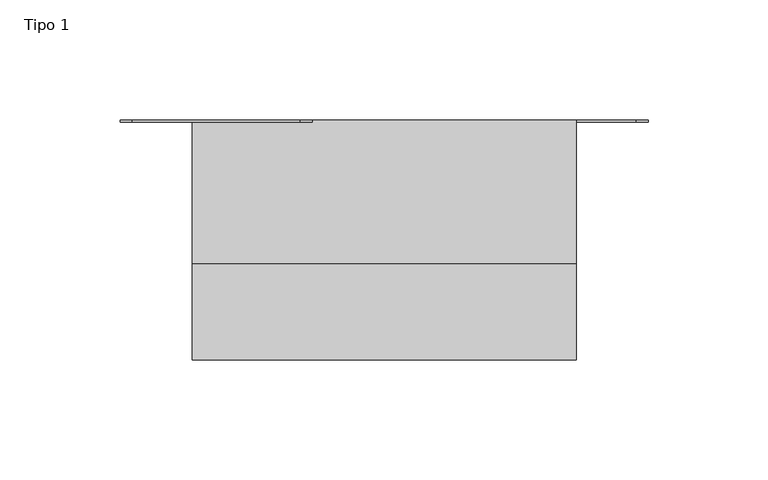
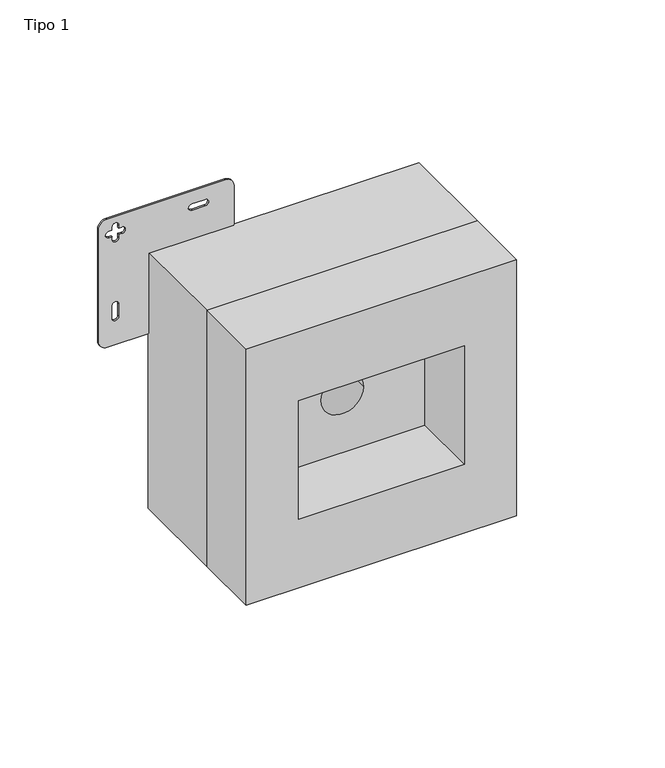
"""IFC4 building model written with IfcOpenShell, lengths in millimetres: proxy geometry, Zeus 503E : Tipo 1."""

from ifc_helpers import new_model, si_unit, point, frame, frame_2d, origin, place, context, project, spatial, polyline, circle_curve, trimmed, segment, composite_curve, outline, extrude, source, transform, mapped, element, save
from ifc_brep_helpers import plane_surface, revolved_surface, advanced_brep


def tipo_1_2ed1a620(model_context):
    return source(origin(), model_context, "Body", "SolidModel", [
        extrude(outline(polyline([(789.7029033, 205.0), (789.7029033, 45.0), (629.7029033, 45.0), (629.7029033, 205.0), (789.7029033, 205.0)]), holes=[polyline([(746.7029033, 76.0), (746.7029033, 174.0), (672.7029033, 174.0), (672.7029033, 76.0), (746.7029033, 76.0)])]), frame((0.0, -175.0, 0.0), z_axis=(0.0, 1.0, 0.0), x_axis=(0.0, 0.0, 1.0)), (0.0, 0.0, 1.0), 40.0),
        advanced_brep(
        [(205.0, -135.0, 629.7029033), (205.0, -135.0, 789.7029033), (45.0, -135.0, 789.7029033), (45.0, -135.0, 629.7029033), (137.5, -135.0, 709.7029033), (112.5, -135.0, 709.7029033), (155.0, -75.0, 629.7029033), (45.0, -75.0, 629.7029033), (45.0, -75.0, 739.7029033), (70.2279221, -75.0, 739.7029033), (95.0, -75.0, 764.4749812), (95.0, -75.0, 789.7029033), (205.0, -75.0, 789.7029033), (205.0, -75.0, 679.7029033), (179.7720779, -75.0, 679.7029033), (155.0, -75.0, 654.9308254), (137.5, -75.0, 709.7029033), (112.5, -75.0, 709.7029033), (155.0, -76.0, 629.7029033), (205.0, -76.0, 629.7029033), (45.0, -76.0, 789.7029033), (45.0, -76.0, 739.7029033), (95.0, -76.0, 789.7029033), (205.0, -76.0, 679.7029033), (155.0, -76.0, 654.9308254), (179.7720779, -76.0, 679.7029033), (95.0, -76.0, 764.4749812), (70.2279221, -76.0, 739.7029033)],
        [
            (0, 1),
            (1, 2),
            (2, 3),
            (3, 0),
            (4, 5, circle_curve(frame((125.0, -135.0, 709.7029033), z_axis=(0.0, 1.0, 0.0), x_axis=(-1.0, 0.0, 0.0)), 12.5)),
            (5, 4, circle_curve(frame((125.0, -135.0, 709.7029033), z_axis=(0.0, 1.0, 0.0), x_axis=(-1.0, 0.0, 0.0)), 12.5)),
            (6, 7),
            (7, 8),
            (8, 9),
            (9, 10),
            (10, 11),
            (11, 12),
            (12, 13),
            (13, 14),
            (14, 15),
            (15, 6),
            (16, 17, circle_curve(frame((125.0, -75.0, 709.7029033), z_axis=(0.0, -1.0, 0.0), x_axis=(-1.0, 0.0, 0.0)), 12.5)),
            (17, 16, circle_curve(frame((125.0, -75.0, 709.7029033), z_axis=(0.0, -1.0, 0.0), x_axis=(-1.0, 0.0, 0.0)), 12.5)),
            (3, 7),
            (6, 18),
            (18, 19),
            (19, 0),
            (2, 20),
            (20, 21),
            (21, 8),
            (1, 12),
            (11, 22),
            (22, 20),
            (19, 23),
            (23, 13),
            (18, 24),
            (24, 25),
            (25, 23),
            (22, 26),
            (26, 27),
            (27, 21),
            (25, 14),
            (24, 15),
            (27, 9),
            (26, 10),
            (4, 16),
            (17, 5),
        ],
        [
            plane_surface(frame((205.0, -135.0, 629.7029033), z_axis=(0.0, -1.0, 0.0), x_axis=(0.0, 0.0, 1.0))),
            plane_surface(frame((205.0, -75.0, 629.7029033), z_axis=(0.0, 1.0, 0.0), x_axis=(0.0, 0.0, -1.0))),
            plane_surface(frame((45.0, -135.0, 629.7029033), z_axis=(0.0, 0.0, -1.0), x_axis=(0.0, 1.0, 0.0))),
            plane_surface(frame((45.0, -135.0, 789.7029033), z_axis=(-1.0, 0.0, 0.0), x_axis=(0.0, 1.0, 0.0))),
            plane_surface(frame((205.0, -135.0, 789.7029033), z_axis=(0.0, 0.0, 1.0), x_axis=(0.0, 1.0, 0.0))),
            plane_surface(frame((205.0, -135.0, 629.7029033), z_axis=(1.0, 0.0, 0.0), x_axis=(0.0, 1.0, 0.0))),
            plane_surface(frame((204.886039, -76.0, 629.7029033), z_axis=(0.0, 1.0, 0.0), x_axis=(1.0, 0.0, 0.0))),
            plane_surface(frame((204.886039, -76.0, 679.7029033), z_axis=(0.0, 0.0, -1.0), x_axis=(0.0, 1.0, 0.0))),
            plane_surface(frame((179.7720779, -76.0, 679.7029033), z_axis=(0.7071067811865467, 0.0, -0.7071067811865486), x_axis=(0.0, 1.0, 0.0))),
            plane_surface(frame((155.0, -76.0, 654.9308254), z_axis=(1.0, 0.0, 0.0), x_axis=(0.0, 1.0, 0.0))),
            plane_surface(frame((45.113961, -76.0, 739.7029033), z_axis=(0.0, 0.0, 1.0), x_axis=(0.0, 1.0, 0.0))),
            plane_surface(frame((70.2279221, -76.0, 739.7029033), z_axis=(-0.7071067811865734, 0.0, 0.7071067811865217), x_axis=(0.0, 1.0, 0.0))),
            plane_surface(frame((95.0, -76.0, 764.4749812), z_axis=(-1.0, 0.0, 0.0), x_axis=(0.0, 1.0, 0.0))),
            revolved_surface(polyline([(112.5, -75.0, 709.7029033), (112.5, -135.0, 709.7029033)]), (125.0, -75.0, 709.7029033), (0.0, 1.0, 0.0)),
        ],
        [
            (0, [[1, 2, 3, 4], [5, 6]]),
            (1, [[7, 8, 9, 10, 11, 12, 13, 14, 15, 16], [17, 18]]),
            (2, [[-4, 19, -7, 20, 21, 22]]),
            (3, [[-3, 23, 24, 25, -8, -19]]),
            (4, [[-2, 26, -12, 27, 28, -23]]),
            (5, [[-1, -22, 29, 30, -13, -26]]),
            (6, [[31, 32, 33, -29, -21]]),
            (6, [[34, 35, 36, -24, -28]]),
            (7, [[-33, 37, -14, -30]]),
            (8, [[-32, 38, -15, -37]]),
            (9, [[-31, -20, -16, -38]]),
            (10, [[-36, 39, -9, -25]]),
            (11, [[-35, 40, -10, -39]]),
            (12, [[-34, -27, -11, -40]]),
            (13, [[-5, 41, -18, 42]]),
            (13, [[-6, -42, -17, -41]]),
        ],
    ),
        extrude(outline(composite_curve([segment(polyline([(764.4749812, 95.0), (814.7029033, 95.0)]), True, "CONTINUOUS"), segment(trimmed(circle_curve(frame_2d((814.7029033, 90.0)), 5.0), [point((814.7029033, 95.0))], [point((819.7029033, 90.0))], False, "CARTESIAN"), True, "CONTINUOUS"), segment(polyline([(819.7029033, 90.0), (819.7029033, 20.0)]), True, "CONTINUOUS"), segment(trimmed(circle_curve(frame_2d((814.7029033, 20.0)), 5.0), [point((819.7029033, 20.0))], [point((814.7029033, 15.0))], False, "CARTESIAN"), True, "CONTINUOUS"), segment(polyline([(814.7029033, 15.0), (744.7029033, 15.0)]), True, "CONTINUOUS"), segment(trimmed(circle_curve(frame_2d((744.7029033, 20.0)), 5.0), [point((744.7029033, 15.0))], [point((739.7029033, 20.0))], False, "CARTESIAN"), True, "CONTINUOUS"), segment(polyline([(739.7029033, 20.0), (739.7029033, 70.2279221), (764.4749812, 95.0)]), True, "CONTINUOUS")], self_intersect=False), holes=[composite_curve([segment(trimmed(circle_curve(frame_2d((756.6526578, 25.0)), 1.9497544), [point((756.6526578, 26.9497544))], [point((756.6526578, 23.0502456))], True, "CARTESIAN"), True, "CONTINUOUS"), segment(polyline([(756.6526578, 23.0502456), (764.4516756, 23.0502456)]), True, "CONTINUOUS"), segment(trimmed(circle_curve(frame_2d((764.4516756, 25.0)), 1.9497544), [point((764.4516756, 23.0502456))], [point((764.4516756, 26.9497544))], True, "CARTESIAN"), True, "CONTINUOUS"), segment(polyline([(764.4516756, 26.9497544), (756.6526578, 26.9497544)]), True, "CONTINUOUS")], self_intersect=False), composite_curve([segment(trimmed(circle_curve(frame_2d((805.8033944, 25.0)), 1.9497544), [point((805.8033944, 26.9497544))], [point((805.8033944, 23.0502456))], True, "CARTESIAN"), True, "CONTINUOUS"), segment(polyline([(805.8033944, 23.0502456), (807.7531489, 23.0502456), (807.7531489, 21.1004911)]), True, "CONTINUOUS"), segment(trimmed(circle_curve(frame_2d((809.7029033, 21.1004911)), 1.9497544), [point((807.7531489, 21.1004911))], [point((811.6526578, 21.1004911))], True, "CARTESIAN"), True, "CONTINUOUS"), segment(polyline([(811.6526578, 21.1004911), (811.6526578, 23.0502456), (813.6024122, 23.0502456)]), True, "CONTINUOUS"), segment(trimmed(circle_curve(frame_2d((813.6024122, 25.0)), 1.9497544), [point((813.6024122, 23.0502456))], [point((813.6024122, 26.9497544))], True, "CARTESIAN"), True, "CONTINUOUS"), segment(polyline([(813.6024122, 26.9497544), (811.6526578, 26.9497544), (811.6526578, 28.8995089)]), True, "CONTINUOUS"), segment(trimmed(circle_curve(frame_2d((809.7029033, 28.8995089)), 1.9497544), [point((811.6526578, 28.8995089))], [point((807.7531489, 28.8995089))], True, "CARTESIAN"), True, "CONTINUOUS"), segment(polyline([(807.7531489, 28.8995089), (807.7531489, 26.9497544), (805.8033944, 26.9497544)]), True, "CONTINUOUS")], self_intersect=False), composite_curve([segment(trimmed(circle_curve(frame_2d((809.7029033, 70.2512278)), 1.9497544), [point((807.7531489, 70.2512278))], [point((811.6526578, 70.2512278))], True, "CARTESIAN"), True, "CONTINUOUS"), segment(polyline([(811.6526578, 70.2512278), (811.6526578, 78.0502456)]), True, "CONTINUOUS"), segment(trimmed(circle_curve(frame_2d((809.7029033, 78.0502456)), 1.9497544), [point((811.6526578, 78.0502456))], [point((807.7531489, 78.0502456))], True, "CARTESIAN"), True, "CONTINUOUS"), segment(polyline([(807.7531489, 78.0502456), (807.7531489, 70.2512278)]), True, "CONTINUOUS")], self_intersect=False)]), frame((0.0, -76.0, 0.0), z_axis=(0.0, 1.0, 0.0), x_axis=(0.0, 0.0, 1.0)), (0.0, 0.0, 1.0), 1.0),
        extrude(outline(composite_curve([segment(polyline([(654.9308254, 155.0), (604.7029033, 155.0)]), True, "CONTINUOUS"), segment(trimmed(circle_curve(frame_2d((604.7029033, 160.0)), 5.0), [point((604.7029033, 155.0))], [point((599.7029033, 160.0))], False, "CARTESIAN"), True, "CONTINUOUS"), segment(polyline([(599.7029033, 160.0), (599.7029033, 230.0)]), True, "CONTINUOUS"), segment(trimmed(circle_curve(frame_2d((604.7029033, 230.0)), 5.0), [point((599.7029033, 230.0))], [point((604.7029033, 235.0))], False, "CARTESIAN"), True, "CONTINUOUS"), segment(polyline([(604.7029033, 235.0), (674.7029033, 235.0)]), True, "CONTINUOUS"), segment(trimmed(circle_curve(frame_2d((674.7029033, 230.0)), 5.0), [point((674.7029033, 235.0))], [point((679.7029033, 230.0))], False, "CARTESIAN"), True, "CONTINUOUS"), segment(polyline([(679.7029033, 230.0), (679.7029033, 179.7720779), (654.9308254, 155.0)]), True, "CONTINUOUS")], self_intersect=False), holes=[composite_curve([segment(trimmed(circle_curve(frame_2d((662.7531489, 225.0)), 1.9497544), [point((662.7531489, 223.0502456))], [point((662.7531489, 226.9497544))], True, "CARTESIAN"), True, "CONTINUOUS"), segment(polyline([(662.7531489, 226.9497544), (654.9541311, 226.9497544)]), True, "CONTINUOUS"), segment(trimmed(circle_curve(frame_2d((654.9541311, 225.0)), 1.9497544), [point((654.9541311, 226.9497544))], [point((654.9541311, 223.0502456))], True, "CARTESIAN"), True, "CONTINUOUS"), segment(polyline([(654.9541311, 223.0502456), (662.7531489, 223.0502456)]), True, "CONTINUOUS")], self_intersect=False), composite_curve([segment(trimmed(circle_curve(frame_2d((609.7029033, 228.8995089)), 1.9497544), [point((611.6526578, 228.8995089))], [point((607.7531489, 228.8995089))], True, "CARTESIAN"), True, "CONTINUOUS"), segment(polyline([(607.7531489, 228.8995089), (607.7531489, 226.9497544), (605.8033944, 226.9497544)]), True, "CONTINUOUS"), segment(trimmed(circle_curve(frame_2d((605.8033944, 225.0)), 1.9497544), [point((605.8033944, 226.9497544))], [point((605.8033944, 223.0502456))], True, "CARTESIAN"), True, "CONTINUOUS"), segment(polyline([(605.8033944, 223.0502456), (607.7531489, 223.0502456), (607.7531489, 221.1004911)]), True, "CONTINUOUS"), segment(trimmed(circle_curve(frame_2d((609.7029033, 221.1004911)), 1.9497544), [point((607.7531489, 221.1004911))], [point((611.6526578, 221.1004911))], True, "CARTESIAN"), True, "CONTINUOUS"), segment(polyline([(611.6526578, 221.1004911), (611.6526578, 223.0502456), (613.6024122, 223.0502456)]), True, "CONTINUOUS"), segment(trimmed(circle_curve(frame_2d((613.6024122, 225.0)), 1.9497544), [point((613.6024122, 223.0502456))], [point((613.6024122, 226.9497544))], True, "CARTESIAN"), True, "CONTINUOUS"), segment(polyline([(613.6024122, 226.9497544), (611.6526578, 226.9497544), (611.6526578, 228.8995089)]), True, "CONTINUOUS")], self_intersect=False), composite_curve([segment(trimmed(circle_curve(frame_2d((609.7029033, 171.9497544)), 1.9497544), [point((607.7531489, 171.9497544))], [point((611.6526578, 171.9497544))], True, "CARTESIAN"), True, "CONTINUOUS"), segment(polyline([(611.6526578, 171.9497544), (611.6526578, 179.7487722)]), True, "CONTINUOUS"), segment(trimmed(circle_curve(frame_2d((609.7029033, 179.7487722)), 1.9497544), [point((611.6526578, 179.7487722))], [point((607.7531489, 179.7487722))], True, "CARTESIAN"), True, "CONTINUOUS"), segment(polyline([(607.7531489, 179.7487722), (607.7531489, 171.9497544)]), True, "CONTINUOUS")], self_intersect=False)]), frame((0.0, -76.0, 0.0), z_axis=(0.0, 1.0, 0.0), x_axis=(0.0, 0.0, 1.0)), (0.0, 0.0, 1.0), 1.0),
    ])


if __name__ == "__main__":
    model = new_model("IFC4")
    model_context = context("Model", 3, world=origin())
    ifc_project = project(units=[si_unit("LENGTHUNIT", "METRE", prefix="MILLI")], contexts=[model_context])
    site = spatial("IfcSite", under=ifc_project)
    building = spatial("IfcBuilding", under=site)
    placement = place(None, origin())
    tipo_1_shape = tipo_1_2ed1a620(model_context)
    element("IfcBuildingElementProxy", 1, Name="Zeus 503E : Tipo 1", ObjectType="Zeus 503E : Tipo 1", at=placement, inside=building, context=model_context, shape_type="MappedRepresentation", body=[
        mapped(tipo_1_shape, transform((0.0, 0.0, 0.0), x_axis=(1.0, 0.0, 0.0), y_axis=(0.0, 1.0, 0.0), z_axis=(0.0, 0.0, 1.0))),
    ])
    save(model, "model.ifc")
